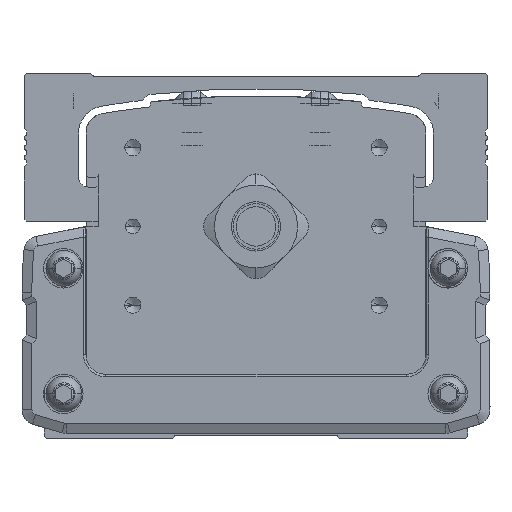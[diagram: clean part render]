
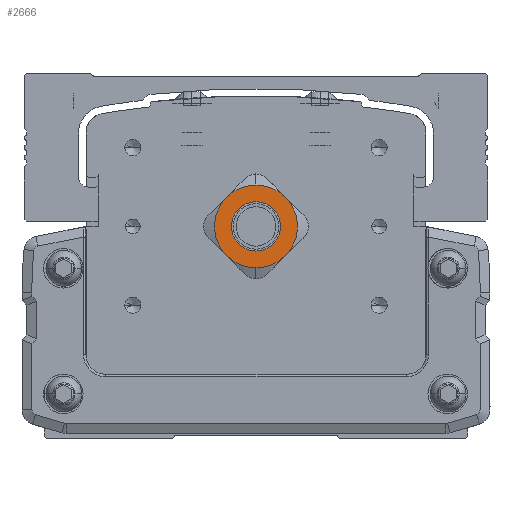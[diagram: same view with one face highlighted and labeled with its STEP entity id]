
A CAD part, front view. The second image highlights one B-rep face of the part: STEP entity #2666.
In plain terms, the highlighted planar face has unit normal (0, -1, 0).
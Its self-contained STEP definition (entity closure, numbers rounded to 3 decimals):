
#2666=ADVANCED_FACE('',(#6892,#6893),#6894,.F.);
#6892=FACE_OUTER_BOUND('',#13130,.T.);
#6893=FACE_BOUND('',#13131,.T.);
#6894=PLANE('',#13132);
#13130=EDGE_LOOP('',(#22158,#22159,#22160,#22161,#22162,#22163));
#13131=EDGE_LOOP('',(#22164,#22165));
#13132=AXIS2_PLACEMENT_3D('',#22166,#22167,#22168);
#22158=ORIENTED_EDGE('',*,*,#37506,.T.);
#22159=ORIENTED_EDGE('',*,*,#38498,.T.);
#22160=ORIENTED_EDGE('',*,*,#38499,.T.);
#22161=ORIENTED_EDGE('',*,*,#38500,.T.);
#22162=ORIENTED_EDGE('',*,*,#38501,.T.);
#22163=ORIENTED_EDGE('',*,*,#38502,.T.);
#22164=ORIENTED_EDGE('',*,*,#37387,.F.);
#22165=ORIENTED_EDGE('',*,*,#38503,.F.);
#22166=CARTESIAN_POINT('',(0.,-361.468,0.127));
#22167=DIRECTION('',(0.,1.0,0.));
#22168=DIRECTION('',(0.,0.0,1.0));
#37387=EDGE_CURVE('',#44625,#44621,#44627,.T.);
#37506=EDGE_CURVE('',#44659,#44818,#44820,.T.);
#38498=EDGE_CURVE('',#44818,#46414,#46415,.T.);
#38499=EDGE_CURVE('',#46414,#46416,#46417,.T.);
#38500=EDGE_CURVE('',#46416,#44764,#46418,.T.);
#38501=EDGE_CURVE('',#44764,#46419,#46420,.T.);
#38502=EDGE_CURVE('',#46419,#44659,#46421,.T.);
#38503=EDGE_CURVE('',#44621,#44625,#46422,.T.);
#44621=VERTEX_POINT('',#55081);
#44625=VERTEX_POINT('',#55086);
#44627=CIRCLE('',#55089,4.625);
#44659=VERTEX_POINT('',#55153);
#44764=VERTEX_POINT('',#55329);
#44818=VERTEX_POINT('',#55462);
#44820=CIRCLE('',#55475,8.413);
#46414=VERTEX_POINT('',#57879);
#46415=CIRCLE('',#57880,8.413);
#46416=VERTEX_POINT('',#57881);
#46417=CIRCLE('',#57882,8.413);
#46418=CIRCLE('',#57883,8.413);
#46419=VERTEX_POINT('',#57884);
#46420=CIRCLE('',#57885,8.413);
#46421=CIRCLE('',#57886,8.413);
#46422=CIRCLE('',#57887,4.625);
#55081=CARTESIAN_POINT('',(0.,-361.468,-4.625));
#55086=CARTESIAN_POINT('',(0.,-361.468,4.625));
#55089=AXIS2_PLACEMENT_3D('',#70073,#70074,#70075);
#55153=CARTESIAN_POINT('',(5.949,-361.468,-5.949));
#55329=CARTESIAN_POINT('',(-5.949,-361.468,-5.949));
#55462=CARTESIAN_POINT('',(5.949,-361.468,5.949));
#55475=AXIS2_PLACEMENT_3D('',#70180,#70181,#70182);
#57879=CARTESIAN_POINT('',(0.,-361.468,8.412));
#57880=AXIS2_PLACEMENT_3D('',#71290,#71291,#71292);
#57881=CARTESIAN_POINT('',(-5.949,-361.468,5.949));
#57882=AXIS2_PLACEMENT_3D('',#71293,#71294,#71295);
#57883=AXIS2_PLACEMENT_3D('',#71296,#71297,#71298);
#57884=CARTESIAN_POINT('',(0.,-361.468,-8.413));
#57885=AXIS2_PLACEMENT_3D('',#71299,#71300,#71301);
#57886=AXIS2_PLACEMENT_3D('',#71302,#71303,#71304);
#57887=AXIS2_PLACEMENT_3D('',#71305,#71306,#71307);
#70073=CARTESIAN_POINT('',(0.,-361.468,0.));
#70074=DIRECTION('',(0.,-1.0,0.));
#70075=DIRECTION('',(0.,0.0,-1.0));
#70180=CARTESIAN_POINT('',(0.,-361.468,0.));
#70181=DIRECTION('',(0.,-1.0,0.));
#70182=DIRECTION('',(0.,0.0,1.0));
#71290=CARTESIAN_POINT('',(0.,-361.468,0.));
#71291=DIRECTION('',(0.,-1.0,0.));
#71292=DIRECTION('',(0.,0.0,1.0));
#71293=CARTESIAN_POINT('',(0.,-361.468,0.));
#71294=DIRECTION('',(0.,-1.0,0.));
#71295=DIRECTION('',(0.,0.0,1.0));
#71296=CARTESIAN_POINT('',(0.,-361.468,0.));
#71297=DIRECTION('',(0.,-1.0,0.));
#71298=DIRECTION('',(0.,0.0,1.0));
#71299=CARTESIAN_POINT('',(0.,-361.468,0.));
#71300=DIRECTION('',(0.,-1.0,0.));
#71301=DIRECTION('',(0.,0.0,1.0));
#71302=CARTESIAN_POINT('',(0.,-361.468,0.));
#71303=DIRECTION('',(0.,-1.0,0.));
#71304=DIRECTION('',(0.,0.0,1.0));
#71305=CARTESIAN_POINT('',(0.,-361.468,0.));
#71306=DIRECTION('',(0.,-1.0,0.));
#71307=DIRECTION('',(0.,0.0,-1.0));
